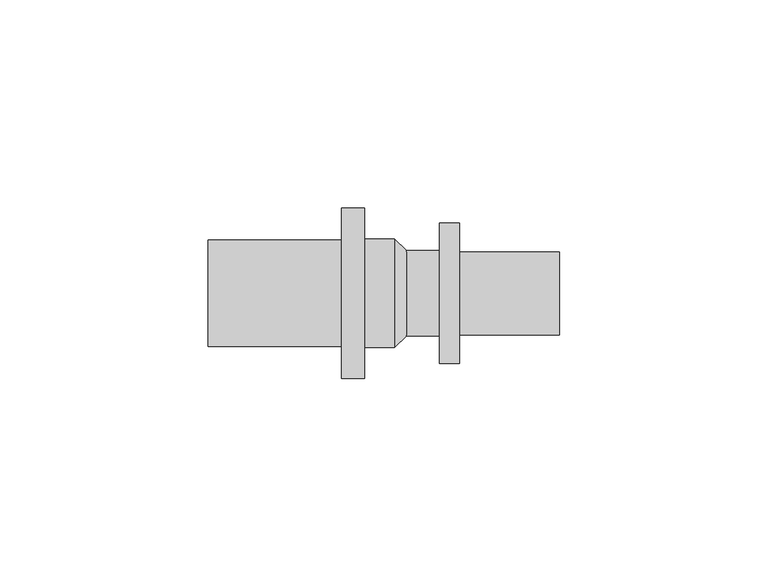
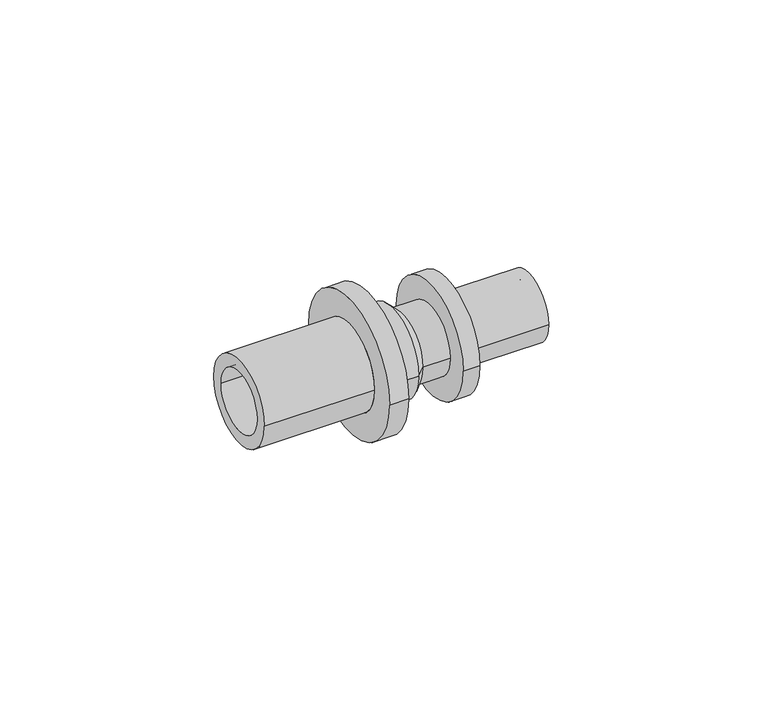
"""IFC4 building model written with IfcOpenShell, lengths in millimetres: pipe fitting geometry, RAUTITAN_Transition_PX : RTI PX Tr DE."""

import ifcopenshell
import ifcopenshell.guid

model = None  # the IFC model being written
_history = None  # IfcOwnerHistory: only IFC2X3 demands one
_inside = {}  # id of a spatial element -> (the spatial element, [elements in it])
_under = {}  # id of a project, library or spatial element -> (it, [spatial elements below it])
_declared = {}  # id of a project -> (the project, [libraries it declares])
_typed = {}  # id of a type object -> (the type object, [elements of that type])
_made_of = {}  # id of a material, layer set ... -> (it, [elements and type objects made of it])


def new_model(schema):
    """Start an empty IFC model of exactly this schema.

    Asked for "IFC4X3", IfcOpenShell would pick the latest addendum, in which some entities
    have other attributes; the version numbers below select the first issue.
    IFC2X3 requires an IfcOwnerHistory on every rooted entity: one is made here for all.
    """
    global model, _history
    if schema == "IFC4X3":
        model = ifcopenshell.file(schema_version=(4, 3, 0, 0))
    else:
        model = ifcopenshell.file(schema=schema)
    _inside.clear()
    _under.clear()
    _declared.clear()
    _typed.clear()
    _made_of.clear()
    _history = None
    if model.schema == "IFC2X3":
        org = make("IfcOrganization", Name="unknown")
        user = make(
            "IfcPersonAndOrganization",
            ThePerson=make("IfcPerson", FamilyName="unknown"),
            TheOrganization=org,
        )
        app = make(
            "IfcApplication",
            ApplicationDeveloper=org,
            Version="unknown",
            ApplicationFullName="unknown",
            ApplicationIdentifier="unknown",
        )
        _history = make(
            "IfcOwnerHistory",
            OwningUser=user,
            OwningApplication=app,
            ChangeAction="ADDED",
            CreationDate=0,
        )
    return model


def make(cls, **values):
    """One entity of the class cls with the attributes given. An attribute that is None is left unset."""
    return model.create_entity(
        cls, **{name: value for name, value in values.items() if value is not None}
    )


def rooted(cls, **values):
    """An entity with a GlobalId (a new one), such as an element, a storey or a relation."""
    return make(cls, GlobalId=ifcopenshell.guid.new(), OwnerHistory=_history, **values)


def si_unit(unit_type, name, prefix=None):
    """IfcSIUnit, for example si_unit("LENGTHUNIT", "METRE", prefix="MILLI")."""
    return make("IfcSIUnit", UnitType=unit_type, Prefix=prefix, Name=name)


def assignment(units):
    """IfcUnitAssignment: the units of a project."""
    return None if units is None else make("IfcUnitAssignment", Units=units)


def point(xyz):
    """IfcCartesianPoint."""
    return None if xyz is None else make("IfcCartesianPoint", Coordinates=xyz)


def direction(xyz):
    """IfcDirection."""
    return None if xyz is None else make("IfcDirection", DirectionRatios=xyz)


def frame(location, z_axis=None, x_axis=None):
    """IfcAxis2Placement3D, a coordinate frame: its origin and axes. An axis left out is left unset."""
    return make(
        "IfcAxis2Placement3D",
        Location=point(location),
        Axis=direction(z_axis),
        RefDirection=direction(x_axis),
    )


def origin():
    """The frame at (0, 0, 0) with its axes left unset."""
    return frame((0.0, 0.0, 0.0))


def place(relative_to, where):
    """IfcLocalPlacement: puts the frame where relative to a parent placement (None: the world)."""
    return make(
        "IfcLocalPlacement", PlacementRelTo=relative_to, RelativePlacement=where
    )


def context(
    kind, dimensions, precision=None, world=None, true_north=None, identifier=None
):
    """IfcGeometricRepresentationContext, for example the 3D "Model" context."""
    return make(
        "IfcGeometricRepresentationContext",
        ContextIdentifier=identifier,
        ContextType=kind,
        CoordinateSpaceDimension=dimensions,
        Precision=precision,
        WorldCoordinateSystem=world,
        TrueNorth=true_north,
    )


def project(units=None, contexts=None):
    """IfcProject with its units and contexts."""
    return rooted(
        "IfcProject",
        Name="project",
        RepresentationContexts=contexts,
        UnitsInContext=assignment(units),
    )


def spatial(cls, under=None, at=None, **own):
    """A site, building, storey or space (cls), placed at a placement, below another one or the project."""
    s = rooted(cls, ObjectPlacement=at, **own)
    if under is not None:
        _under.setdefault(under.id(), (under, []))[1].append(s)
    return s


def polyline(points):
    """IfcPolyline through the points."""
    return make("IfcPolyline", Points=[point(p) for p in points])


def circle_curve(where, radius):
    """IfcCircle in the frame where."""
    return make("IfcCircle", Position=where, Radius=radius)


def shape(context_of_items, identifier, shape_type, items):
    """IfcShapeRepresentation: the items that make up one representation, for example the "Body"."""
    return make(
        "IfcShapeRepresentation",
        ContextOfItems=context_of_items,
        RepresentationIdentifier=identifier,
        RepresentationType=shape_type,
        Items=items,
    )


def source(mapping_origin, context_of_items, identifier, shape_type, items):
    """IfcRepresentationMap: a shape defined once, which mapped items show again and again."""
    return make(
        "IfcRepresentationMap",
        MappingOrigin=mapping_origin,
        MappedRepresentation=shape(context_of_items, identifier, shape_type, items),
    )


def transform(
    local_origin,
    x_axis=None,
    y_axis=None,
    z_axis=None,
    scale=None,
    scale2=None,
    scale3=None,
    uniform=True,
):
    """IfcCartesianTransformationOperator3D, or its non-uniform kind. x_axis, y_axis, z_axis: its Axis1, 2, 3."""
    if uniform:
        return make(
            "IfcCartesianTransformationOperator3D",
            Axis1=direction(x_axis),
            Axis2=direction(y_axis),
            LocalOrigin=point(local_origin),
            Scale=scale,
            Axis3=direction(z_axis),
        )
    return make(
        "IfcCartesianTransformationOperator3DnonUniform",
        Axis1=direction(x_axis),
        Axis2=direction(y_axis),
        LocalOrigin=point(local_origin),
        Scale=scale,
        Axis3=direction(z_axis),
        Scale2=scale2,
        Scale3=scale3,
    )


def mapped(mapping_source, mapping_target):
    """IfcMappedItem: shows the shape of a source again, moved by a transform."""
    return make(
        "IfcMappedItem", MappingSource=mapping_source, MappingTarget=mapping_target
    )


def made_of(thing, what):
    """Note that an element or type object is made of a material, layer set ...; save() writes the relation."""
    if what is not None:
        _made_of.setdefault(what.id(), (what, []))[1].append(thing)
    return thing


def element(
    cls,
    number,
    at=None,
    inside=None,
    cuts=None,
    type_object=None,
    material=None,
    context=None,
    identifier="Body",
    shape_type=None,
    held_by="IfcProductDefinitionShape",
    body=None,
    shapes=None,
    **own,
):
    """One element of the class cls, such as IfcWall. Its Tag is "e" and its number.

    at: its placement. inside: the storey or other place that contains it. cuts: it is an
    opening in that element (IfcRelVoidsElement). A single representation is given by context,
    identifier, shape_type and body (its items); several are given by shapes. held_by: the class
    of the entity that holds the representations. save() writes the other relations.
    """
    e = rooted(cls, Tag="e%d" % number, ObjectPlacement=at, **own)
    if body is not None:
        shapes = [shape(context, identifier, shape_type, body)]
    if shapes is not None:
        e.Representation = make(held_by, Representations=shapes)
    if inside is not None:
        _inside.setdefault(inside.id(), (inside, []))[1].append(e)
    if cuts is not None:
        rooted(
            "IfcRelVoidsElement", RelatingBuildingElement=cuts, RelatedOpeningElement=e
        )
    if type_object is not None:
        _typed.setdefault(type_object.id(), (type_object, []))[1].append(e)
    return made_of(e, material)


def aggregate(whole, parts):
    """IfcRelAggregates: a whole, such as a stair, and the parts it consists of."""
    return rooted("IfcRelAggregates", RelatingObject=whole, RelatedObjects=parts)


def save(model, path):
    """Write the relations noted so far, then the file.

    IfcRelAggregates (storeys below a building ...), IfcRelContainedInSpatialStructure (elements
    in a storey), IfcRelDefinesByType, IfcRelAssociatesMaterial and IfcRelDeclares: one each for
    every whole, place, type object, material and project.
    """
    for whole, parts in _under.values():
        aggregate(whole, parts)
    for where, things in _inside.values():
        rooted(
            "IfcRelContainedInSpatialStructure",
            RelatedElements=things,
            RelatingStructure=where,
        )
    for kind, things in _typed.values():
        rooted("IfcRelDefinesByType", RelatedObjects=things, RelatingType=kind)
    for what, things in _made_of.values():
        rooted("IfcRelAssociatesMaterial", RelatedObjects=things, RelatingMaterial=what)
    for by, libraries in _declared.values():
        rooted("IfcRelDeclares", RelatingContext=by, RelatedDefinitions=libraries)
    model.write(path)


def plane_surface(at):
    """IfcPlane: the flat surface through the origin of the frame at, square to its z axis."""
    return make("IfcPlane", Position=at)


def cylinder_surface(at, radius):
    """IfcCylindricalSurface: all points at the distance radius from the z axis of the frame at."""
    return make("IfcCylindricalSurface", Position=at, Radius=radius)


def revolved_surface(curve, axis_point, axis_direction):
    """IfcSurfaceOfRevolution: the curve turned about the line through axis_point along axis_direction."""
    return make(
        "IfcSurfaceOfRevolution",
        SweptCurve=make("IfcArbitraryOpenProfileDef", ProfileType="CURVE", Curve=curve),
        AxisPosition=make("IfcAxis1Placement", Location=point(axis_point), Axis=direction(axis_direction)),
    )


def advanced_brep(points, edges, surfaces, faces):
    """IfcAdvancedBrep: a solid bounded by faces that lie on surfaces and meet in shared edges.

    An edge is (start, end): straight between two places in points (the first is 0);
    or (start, end, curve); or (start, end, curve, False) where it runs against its curve.
    A face is (place in surfaces, loops), or (place, loops, False) where it looks against
    its surface's normal. A loop lists edges by number (the first is 1), with a minus sign
    where the edge is run from its end to its start. The first loop is the outer one.
    """
    corners = [point(p) for p in points]
    vertices = [make("IfcVertexPoint", VertexGeometry=c) for c in corners]
    made = []
    for start, end, *more in edges:
        made.append(
            make(
                "IfcEdgeCurve",
                EdgeStart=vertices[start],
                EdgeEnd=vertices[end],
                EdgeGeometry=more[0] if more else make("IfcPolyline", Points=[corners[start], corners[end]]),
                SameSense=more[1] if len(more) > 1 else True,
            )
        )
    hull = []
    for where, loops, *sense in faces:
        bounds = []
        for j, loop in enumerate(loops):
            ring = [make("IfcOrientedEdge", EdgeElement=made[abs(k) - 1], Orientation=k > 0) for k in loop]
            bounds.append(
                make(
                    "IfcFaceOuterBound" if j == 0 else "IfcFaceBound",
                    Bound=make("IfcEdgeLoop", EdgeList=ring),
                    Orientation=True,
                )
            )
        hull.append(make("IfcAdvancedFace", Bounds=bounds, FaceSurface=surfaces[where], SameSense=sense[0] if sense else True))
    return make("IfcAdvancedBrep", Outer=make("IfcClosedShell", CfsFaces=hull))


def pipe_fitting_c8656788(model_context):
    return source(origin(), model_context, "Body", "AdvancedBrep", [
        advanced_brep(
        [(-46.15, 9.05, 0.0), (-46.15, -9.05, 0.0), (-1.15, -9.05, 0.0), (-1.15, 9.05, 0.0), (-1.4, 13.05, 0.0), (-1.4, -13.05, 0.0), (-8.65, -13.05, 0.0), (-8.65, 13.05, 0.0), (1.4, 10.25, 0.0), (1.4, -10.25, 0.0), (9.35, 10.25, 0.0), (9.35, -10.25, 0.0), (14.15, 16.85, 0.0), (14.15, -16.85, 0.0), (9.35, -16.85, 0.0), (9.35, 16.85, 0.0), (38.15, 9.95, 0.0), (38.15, -9.95, 0.0), (14.15, -9.95, 0.0), (14.15, 9.95, 0.0), (1.15, 6.75, 0.0), (1.15, -6.75, 0.0), (38.15, -6.75, 0.0), (38.15, 6.75, 0.0), (-8.65, 20.45, 0.0), (-8.65, -20.45, 0.0), (-14.15, 12.75, 0.0), (-14.15, -12.75, 0.0), (-46.15, -12.75, 0.0), (-46.15, 12.75, 0.0), (-14.15, -20.45, 0.0), (-14.15, 20.45, 0.0)],
        [
            (0, 1, circle_curve(frame((-46.15, 0.0, 0.0), z_axis=(-1.0, 0.0, 0.0), x_axis=(0.0, -1.0, 0.0)), 9.05)),
            (1, 2),
            (2, 3, circle_curve(frame((-1.15, 0.0, 0.0), z_axis=(1.0, 0.0, 0.0), x_axis=(0.0, -1.0, 0.0)), 9.05)),
            (3, 0),
            (4, 5, circle_curve(frame((-1.4, 0.0, 0.0), z_axis=(-1.0, 0.0, 0.0), x_axis=(0.0, -1.0, 0.0)), 13.05)),
            (5, 6),
            (6, 7, circle_curve(frame((-8.65, 0.0, 0.0), z_axis=(1.0, 0.0, 0.0), x_axis=(0.0, -1.0, 0.0)), 13.05)),
            (7, 4),
            (8, 9, circle_curve(frame((1.4, 0.0, 0.0), z_axis=(-1.0, 0.0, 0.0), x_axis=(0.0, -1.0, 0.0)), 10.25)),
            (9, 5),
            (4, 8),
            (10, 11, circle_curve(frame((9.35, 0.0, 0.0), z_axis=(-1.0, 0.0, 0.0), x_axis=(0.0, -1.0, 0.0)), 10.25)),
            (11, 9),
            (8, 10),
            (12, 13, circle_curve(frame((14.15, 0.0, 0.0), z_axis=(-1.0, 0.0, 0.0), x_axis=(0.0, -1.0, 0.0)), 16.85)),
            (13, 14),
            (14, 15, circle_curve(frame((9.35, 0.0, 0.0), z_axis=(1.0, 0.0, 0.0), x_axis=(0.0, -1.0, 0.0)), 16.85)),
            (15, 12),
            (16, 17, circle_curve(frame((38.15, 0.0, 0.0), z_axis=(-1.0, 0.0, 0.0), x_axis=(0.0, -1.0, 0.0)), 9.95)),
            (17, 18),
            (18, 19, circle_curve(frame((14.15, 0.0, 0.0), z_axis=(1.0, 0.0, 0.0), x_axis=(0.0, -1.0, 0.0)), 9.95)),
            (19, 16),
            (20, 21, circle_curve(frame((1.15, 0.0, 0.0), z_axis=(-1.0, 0.0, 0.0), x_axis=(0.0, -1.0, 0.0)), 6.75)),
            (21, 22),
            (22, 23, circle_curve(frame((38.15, 0.0, 0.0), z_axis=(1.0, 0.0, 0.0), x_axis=(0.0, -1.0, 0.0)), 6.75)),
            (23, 20),
            (2, 21),
            (20, 3),
            (1, 0, circle_curve(frame((-46.15, 0.0, 0.0), z_axis=(-1.0, 0.0, 0.0), x_axis=(0.0, 1.0, 0.0)), 9.05)),
            (3, 2, circle_curve(frame((-1.15, 0.0, 0.0), z_axis=(1.0, 0.0, 0.0), x_axis=(0.0, 1.0, 0.0)), 9.05)),
            (24, 25, circle_curve(frame((-8.65, 0.0, 0.0), z_axis=(1.0, 0.0, 0.0), x_axis=(0.0, 1.0, 0.0)), 20.45)),
            (25, 24, circle_curve(frame((-8.65, 0.0, 0.0), z_axis=(1.0, 0.0, 0.0), x_axis=(0.0, -1.0, 0.0)), 20.45)),
            (6, 7, circle_curve(frame((-8.65, 0.0, 0.0), z_axis=(-1.0, 0.0, 0.0), x_axis=(0.0, 1.0, 0.0)), 13.05)),
            (5, 4, circle_curve(frame((-1.4, 0.0, 0.0), z_axis=(-1.0, 0.0, 0.0), x_axis=(0.0, 1.0, 0.0)), 13.05)),
            (9, 8, circle_curve(frame((1.4, 0.0, 0.0), z_axis=(-1.0, 0.0, 0.0), x_axis=(0.0, 1.0, 0.0)), 10.25)),
            (11, 10, circle_curve(frame((9.35, 0.0, 0.0), z_axis=(-1.0, 0.0, 0.0), x_axis=(0.0, 1.0, 0.0)), 10.25)),
            (14, 15, circle_curve(frame((9.35, 0.0, 0.0), z_axis=(-1.0, 0.0, 0.0), x_axis=(0.0, 1.0, 0.0)), 16.85)),
            (13, 12, circle_curve(frame((14.15, 0.0, 0.0), z_axis=(-1.0, 0.0, 0.0), x_axis=(0.0, 1.0, 0.0)), 16.85)),
            (18, 19, circle_curve(frame((14.15, 0.0, 0.0), z_axis=(-1.0, 0.0, 0.0), x_axis=(0.0, 1.0, 0.0)), 9.95)),
            (17, 16, circle_curve(frame((38.15, 0.0, 0.0), z_axis=(-1.0, 0.0, 0.0), x_axis=(0.0, 1.0, 0.0)), 9.95)),
            (22, 23, circle_curve(frame((38.15, 0.0, 0.0), z_axis=(-1.0, 0.0, 0.0), x_axis=(0.0, 1.0, 0.0)), 6.75)),
            (21, 20, circle_curve(frame((1.15, 0.0, 0.0), z_axis=(-1.0, 0.0, 0.0), x_axis=(0.0, 1.0, 0.0)), 6.75)),
            (26, 27, circle_curve(frame((-14.15, 0.0, 0.0), z_axis=(-1.0, 0.0, 0.0), x_axis=(0.0, -1.0, 0.0)), 12.75)),
            (27, 28),
            (28, 29, circle_curve(frame((-46.15, 0.0, 0.0), z_axis=(1.0, 0.0, 0.0), x_axis=(0.0, -1.0, 0.0)), 12.75)),
            (29, 26),
            (25, 30),
            (30, 31, circle_curve(frame((-14.15, 0.0, 0.0), z_axis=(1.0, 0.0, 0.0), x_axis=(0.0, -1.0, 0.0)), 20.45)),
            (31, 24),
            (28, 29, circle_curve(frame((-46.15, 0.0, 0.0), z_axis=(-1.0, 0.0, 0.0), x_axis=(0.0, 1.0, 0.0)), 12.75)),
            (27, 26, circle_curve(frame((-14.15, 0.0, 0.0), z_axis=(-1.0, 0.0, 0.0), x_axis=(0.0, 1.0, 0.0)), 12.75)),
            (30, 31, circle_curve(frame((-14.15, 0.0, 0.0), z_axis=(-1.0, 0.0, 0.0), x_axis=(0.0, 1.0, 0.0)), 20.45)),
        ],
        [
            revolved_surface(polyline([(-1.15, -9.05, 0.0), (-46.15, -9.05, 0.0)]), (0.0, 0.0, 0.0), (1.0, 0.0, 0.0)),
            cylinder_surface(frame((0.0, 0.0, 0.0), z_axis=(1.0, 0.0, 0.0), x_axis=(0.0, -1.0, 0.0)), 13.05),
            revolved_surface(polyline([(-1.4, -13.05, 0.0), (1.4, -10.25, 0.0)]), (0.0, 0.0, 0.0), (1.0, 0.0, 0.0)),
            cylinder_surface(frame((0.0, 0.0, 0.0), z_axis=(1.0, 0.0, 0.0), x_axis=(0.0, -1.0, 0.0)), 10.25),
            cylinder_surface(frame((0.0, 0.0, 0.0), z_axis=(1.0, 0.0, 0.0), x_axis=(0.0, -1.0, 0.0)), 16.85),
            cylinder_surface(frame((0.0, 0.0, 0.0), z_axis=(1.0, 0.0, 0.0), x_axis=(0.0, -1.0, 0.0)), 9.95),
            revolved_surface(polyline([(38.15, -6.75, 0.0), (1.15, -6.75, 0.0)]), (0.0, 0.0, 0.0), (1.0, 0.0, 0.0)),
            revolved_surface(polyline([(1.15, -6.75, 0.0), (-1.15, -9.05, 0.0)]), (0.0, 0.0, 0.0), (1.0, 0.0, 0.0)),
            revolved_surface(polyline([(-1.15, 9.05, 0.0), (-46.15, 9.05, 0.0)]), (0.0, 0.0, 0.0), (1.0, 0.0, 0.0)),
            plane_surface(frame((-8.65, 0.0, 0.0), z_axis=(1.0, 0.0, 0.0), x_axis=(0.0, 1.0, 0.0))),
            cylinder_surface(frame((0.0, 0.0, 0.0), z_axis=(1.0, 0.0, 0.0), x_axis=(0.0, 1.0, 0.0)), 13.05),
            revolved_surface(polyline([(-1.4, 13.05, 0.0), (1.4, 10.25, 0.0)]), (0.0, 0.0, 0.0), (1.0, 0.0, 0.0)),
            cylinder_surface(frame((0.0, 0.0, 0.0), z_axis=(1.0, 0.0, 0.0), x_axis=(0.0, 1.0, 0.0)), 10.25),
            plane_surface(frame((9.35, 0.0, 0.0), z_axis=(-1.0, 0.0, 0.0), x_axis=(0.0, 1.0, 0.0))),
            cylinder_surface(frame((0.0, 0.0, 0.0), z_axis=(1.0, 0.0, 0.0), x_axis=(0.0, 1.0, 0.0)), 16.85),
            plane_surface(frame((14.15, 0.0, 0.0), z_axis=(1.0, 0.0, 0.0), x_axis=(0.0, 1.0, 0.0))),
            cylinder_surface(frame((0.0, 0.0, 0.0), z_axis=(1.0, 0.0, 0.0), x_axis=(0.0, 1.0, 0.0)), 9.95),
            plane_surface(frame((38.15, 0.0, 0.0), z_axis=(1.0, 0.0, 0.0), x_axis=(0.0, 1.0, 0.0))),
            revolved_surface(polyline([(38.15, 6.75, 0.0), (1.15, 6.75, 0.0)]), (0.0, 0.0, 0.0), (1.0, 0.0, 0.0)),
            revolved_surface(polyline([(1.15, 6.75, 0.0), (-1.15, 9.05, 0.0)]), (0.0, 0.0, 0.0), (1.0, 0.0, 0.0)),
            cylinder_surface(frame((0.0, 0.0, 0.0), z_axis=(1.0, 0.0, 0.0), x_axis=(0.0, -1.0, 0.0)), 12.75),
            cylinder_surface(frame((0.0, 0.0, 0.0), z_axis=(1.0, 0.0, 0.0), x_axis=(0.0, -1.0, 0.0)), 20.45),
            plane_surface(frame((-46.15, 0.0, 0.0), z_axis=(-1.0, 0.0, 0.0), x_axis=(0.0, 1.0, 0.0))),
            cylinder_surface(frame((0.0, 0.0, 0.0), z_axis=(1.0, 0.0, 0.0), x_axis=(0.0, 1.0, 0.0)), 12.75),
            plane_surface(frame((-14.15, 0.0, 0.0), z_axis=(-1.0, 0.0, 0.0), x_axis=(0.0, 1.0, 0.0))),
            cylinder_surface(frame((0.0, 0.0, 0.0), z_axis=(1.0, 0.0, 0.0), x_axis=(0.0, 1.0, 0.0)), 20.45),
        ],
        [
            (0, [[1, 2, 3, 4]]),
            (1, [[5, 6, 7, 8]]),
            (2, [[9, 10, -5, 11]]),
            (3, [[12, 13, -9, 14]]),
            (4, [[15, 16, 17, 18]]),
            (5, [[19, 20, 21, 22]]),
            (6, [[23, 24, 25, 26]]),
            (7, [[-3, 27, -23, 28]]),
            (8, [[29, -4, 30, -2]]),
            (9, [[31, 32], [33, -7]]),
            (10, [[34, -8, -33, -6]]),
            (11, [[35, -11, -34, -10]]),
            (12, [[36, -14, -35, -13]]),
            (13, [[37, -17], [-36, -12]]),
            (14, [[38, -18, -37, -16]]),
            (15, [[-38, -15], [39, -21]]),
            (16, [[40, -22, -39, -20]]),
            (17, [[-40, -19], [41, -25]]),
            (18, [[42, -26, -41, -24]]),
            (19, [[-30, -28, -42, -27]]),
            (20, [[43, 44, 45, 46]]),
            (21, [[-32, 47, 48, 49]]),
            (22, [[50, -45], [-29, -1]]),
            (23, [[51, -46, -50, -44]]),
            (24, [[52, -48], [-51, -43]]),
            (25, [[-31, -49, -52, -47]]),
        ],
    ),
    ])


if __name__ == "__main__":
    model = new_model("IFC4")
    model_context = context("Model", 3, world=origin())
    ifc_project = project(units=[si_unit("LENGTHUNIT", "METRE", prefix="MILLI")], contexts=[model_context])
    site = spatial("IfcSite", under=ifc_project)
    building = spatial("IfcBuilding", under=site)
    placement = place(None, origin())
    pipe_fitting_shape = pipe_fitting_c8656788(model_context)
    element("IfcPipeFitting", 1, ObjectType="RAUTITAN_Transition_PX : RTI PX Tr DE", at=placement, inside=building, context=model_context, shape_type="MappedRepresentation", body=[
        mapped(pipe_fitting_shape, transform((0.0, 0.0, 0.0), x_axis=(1.0, 0.0, 0.0), y_axis=(0.0, 1.0, 0.0), z_axis=(0.0, 0.0, 1.0))),
    ])
    save(model, "model.ifc")
